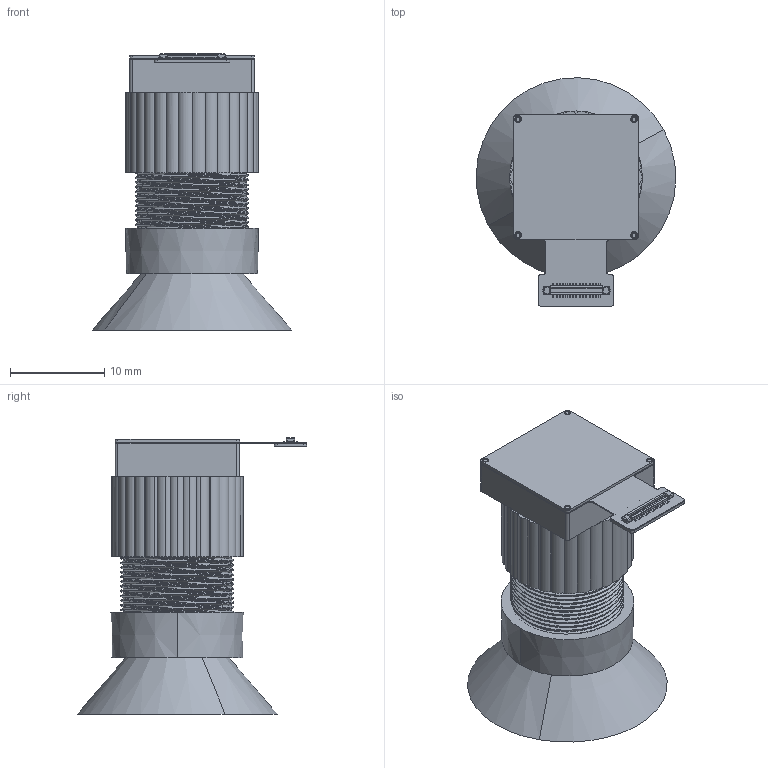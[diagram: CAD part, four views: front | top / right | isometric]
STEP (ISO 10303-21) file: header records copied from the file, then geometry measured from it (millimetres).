
FILE_DESCRIPTION(('CATIA V5 STEP Exchange'),'2;1');
FILE_NAME('C:\Users\Administrator\Desktop\ZS1501-B (VD5943CE) 3D FOV81 251103.stp','2025-11-03T03:01:16+00:00',('none'),('none'),'CATIA Version 5 Release 21 GA (IN-10)','CATIA V5 STEP AP214','none');
FILE_SCHEMA(('AUTOMOTIVE_DESIGN { 1 0 10303 214 1 1 1 1 }'));
Products named in the file (29): ZS1501-B-78; FPC; STELL; Copy (1) of BM28B0.6-30DP; 无耳镜座; VD5943-COB-PLCC; 1940; SENSOR-; WIRE-; PCB; glass; 支架; Copy (1) of GLUE; Part3; Copy (1) of 0201 ji; 0201; C148; User_Library-0201(0603M)_Cap; Copy (1) of 0201 ji.2; STELL2; 0603; User_Library-0603(1608M)_Cap; 0402.4; User_Library-Res-0402^0402电阻; ANGLE81; LENS; 6225_PB01; 6225_PR01; SPL_0544
Assembly tree (47 placements, depth 6):
  ZS1501-B-78
    FPC
    STELL
    Copy (1) of BM28B0.6-30DP
    无耳镜座
    VD5943-COB-PLCC
      1940
        SENSOR-
        WIRE-
      PCB
      glass
      支架
      Copy (1) of GLUE
      Part3
      Copy (1) of 0201 ji
        0201  x6
          C148
            User_Library-0201(0603M)_Cap
      Copy (1) of 0201 ji.2
        0201  x6
          C148
            User_Library-0201(0603M)_Cap
    STELL2
    0603  x6
      User_Library-0603(1608M)_Cap
    0402.4  x4
      User_Library-Res-0402^0402电阻
    ANGLE81
    LENS
      6225_PB01
      6225_PR01
      SPL_0544
Bounding box: 21.18 x 24.29 x 29.29 mm (x, y, z)
Volume: 1415.2 mm3; surface area: 5327.4 mm2
Topology: 185 solids, 186 shells, 4383 faces, 12294 edges, 9324 vertices
Faces by surface type: plane 2255, bspline 1227, cylinder 795, sphere 68, cone 22, torus 12, revolution 4
Entity records: 111494 total; most frequent: CARTESIAN_POINT 41726, ORIENTED_EDGE 9492, DIRECTION 8896, EDGE_CURVE 4747, VECTOR 4720, LINE 4720, PRESENTATION_STYLE_ASSIGNMENT 3121, VERTEX_POINT 3081
